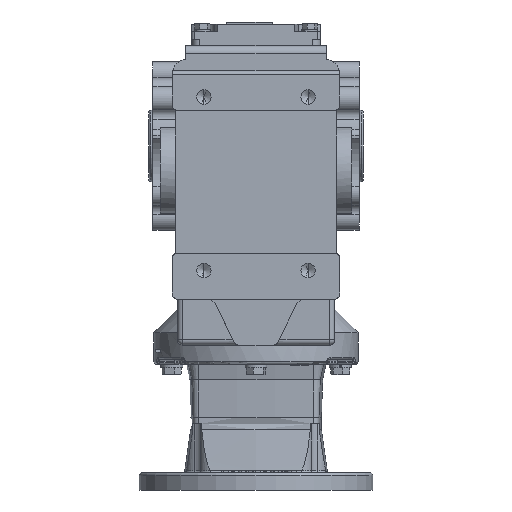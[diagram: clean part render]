
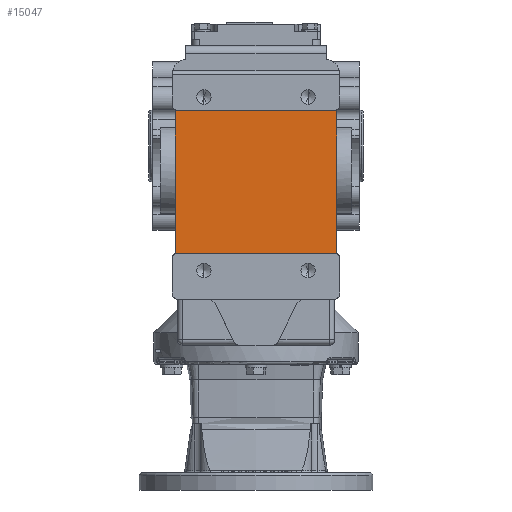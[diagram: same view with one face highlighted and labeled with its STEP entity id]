
A CAD part, front view. The second image highlights one B-rep face of the part: STEP entity #15047.
In plain terms, the highlighted planar face has unit normal (0, -1, 0).
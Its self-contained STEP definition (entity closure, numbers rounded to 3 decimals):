
#202 = CARTESIAN_POINT ( 'NONE',  ( -77., -175., 40. ) ) ;
#203 = DIRECTION ( 'NONE',  ( 0., 1., 0. ) ) ;
#204 = DIRECTION ( 'NONE',  ( 0., 0., -1. ) ) ;
#205 = DIRECTION ( 'NONE',  ( -1., 0., 0. ) ) ;
#206 = CARTESIAN_POINT ( 'NONE',  ( -79., -175., 15. ) ) ;
#210 = CARTESIAN_POINT ( 'NONE',  ( -82., -175., -105. ) ) ;
#211 = DIRECTION ( 'NONE',  ( 0., 0., 1. ) ) ;
#214 = CARTESIAN_POINT ( 'NONE',  ( -77., -175., -110. ) ) ;
#215 = DIRECTION ( 'NONE',  ( 0., 1., 0. ) ) ;
#216 = DIRECTION ( 'NONE',  ( 0., 0., -1. ) ) ;
#8695 = CARTESIAN_POINT ( 'NONE',  ( -100., -175., 15. ) ) ;
#8699 = PLANE ( 'NONE',  #35840 ) ;
#8754 = DIRECTION ( 'NONE',  ( 0., -1., 0. ) ) ;
#8755 = DIRECTION ( 'NONE',  ( 0., 0., -1. ) ) ;
#15047 = ADVANCED_FACE ( 'NONE', ( #40135 ), #8699, .T. ) ;
#21830 = AXIS2_PLACEMENT_3D ( 'NONE', #49288, #49289, #49290 ) ;
#21837 = AXIS2_PLACEMENT_3D ( 'NONE', #49327, #49328, #49329 ) ;
#21895 = AXIS2_PLACEMENT_3D ( 'NONE', #202, #203, #204 ) ;
#21897 = AXIS2_PLACEMENT_3D ( 'NONE', #214, #215, #216 ) ;
#28601 = VERTEX_POINT ( 'NONE', #46579 ) ;
#28608 = VERTEX_POINT ( 'NONE', #46586 ) ;
#28618 = VERTEX_POINT ( 'NONE', #46596 ) ;
#28620 = VERTEX_POINT ( 'NONE', #46598 ) ;
#28626 = VERTEX_POINT ( 'NONE', #46604 ) ;
#28750 = VERTEX_POINT ( 'NONE', #46728 ) ;
#28751 = VERTEX_POINT ( 'NONE', #46729 ) ;
#28754 = VERTEX_POINT ( 'NONE', #46732 ) ;
#28996 = EDGE_LOOP ( 'NONE', ( #30804, #30805, #30806, #30807, #30808, #30809, #30810, #30811 ) ) ;
#29444 = EDGE_CURVE ( 'NONE', #28608, #28618, #48049, .T. ) ;
#29446 = EDGE_CURVE ( 'NONE', #28601, #28618, #48053, .T. ) ;
#29448 = EDGE_CURVE ( 'NONE', #28601, #28620, #48056, .T. ) ;
#29462 = EDGE_CURVE ( 'NONE', #28626, #28620, #48079, .T. ) ;
#29683 = EDGE_CURVE ( 'NONE', #28608, #28750, #48404, .T. ) ;
#29686 = EDGE_CURVE ( 'NONE', #28751, #28750, #48401, .T. ) ;
#29687 = EDGE_CURVE ( 'NONE', #28751, #28754, #48410, .T. ) ;
#29688 = EDGE_CURVE ( 'NONE', #28626, #28754, #48412, .T. ) ;
#30804 = ORIENTED_EDGE ( 'NONE', *, *, #29448, .F. ) ;
#30805 = ORIENTED_EDGE ( 'NONE', *, *, #29446, .T. ) ;
#30806 = ORIENTED_EDGE ( 'NONE', *, *, #29444, .F. ) ;
#30807 = ORIENTED_EDGE ( 'NONE', *, *, #29683, .T. ) ;
#30808 = ORIENTED_EDGE ( 'NONE', *, *, #29686, .F. ) ;
#30809 = ORIENTED_EDGE ( 'NONE', *, *, #29687, .T. ) ;
#30810 = ORIENTED_EDGE ( 'NONE', *, *, #29688, .F. ) ;
#30811 = ORIENTED_EDGE ( 'NONE', *, *, #29462, .T. ) ;
#35840 = AXIS2_PLACEMENT_3D ( 'NONE', #8695, #8754, #8755 ) ;
#40135 = FACE_OUTER_BOUND ( 'NONE', #28996, .T. ) ;
#46579 = CARTESIAN_POINT ( 'NONE',  ( 79., -175., 35.417 ) ) ;
#46586 = CARTESIAN_POINT ( 'NONE',  ( -77., -175., 35. ) ) ;
#46596 = CARTESIAN_POINT ( 'NONE',  ( 77., -175., 35. ) ) ;
#46598 = CARTESIAN_POINT ( 'NONE',  ( 79., -175., -105.417 ) ) ;
#46604 = CARTESIAN_POINT ( 'NONE',  ( 77., -175., -105. ) ) ;
#46728 = CARTESIAN_POINT ( 'NONE',  ( -79., -175., 35.417 ) ) ;
#46729 = CARTESIAN_POINT ( 'NONE',  ( -79., -175., -105.417 ) ) ;
#46732 = CARTESIAN_POINT ( 'NONE',  ( -77., -175., -105. ) ) ;
#48049 = LINE ( 'NONE', #49283, #48052 ) ;
#48052 = VECTOR ( 'NONE', #49284, 1000. ) ;
#48053 = CIRCLE ( 'NONE', #21830, 5. ) ;
#48056 = LINE ( 'NONE', #49291, #48059 ) ;
#48059 = VECTOR ( 'NONE', #49292, 1000. ) ;
#48079 = CIRCLE ( 'NONE', #21837, 5. ) ;
#48401 = LINE ( 'NONE', #206, #48411 ) ;
#48404 = CIRCLE ( 'NONE', #21895, 5. ) ;
#48410 = CIRCLE ( 'NONE', #21897, 5. ) ;
#48411 = VECTOR ( 'NONE', #211, 1000. ) ;
#48412 = LINE ( 'NONE', #210, #48414 ) ;
#48414 = VECTOR ( 'NONE', #205, 1000. ) ;
#49283 = CARTESIAN_POINT ( 'NONE',  ( -82., -175., 35. ) ) ;
#49284 = DIRECTION ( 'NONE',  ( 1., 0., 0. ) ) ;
#49288 = CARTESIAN_POINT ( 'NONE',  ( 77., -175., 40. ) ) ;
#49289 = DIRECTION ( 'NONE',  ( 0., 1., 0. ) ) ;
#49290 = DIRECTION ( 'NONE',  ( 0., 0., -1. ) ) ;
#49291 = CARTESIAN_POINT ( 'NONE',  ( 79., -175., 15. ) ) ;
#49292 = DIRECTION ( 'NONE',  ( 0., 0., -1. ) ) ;
#49327 = CARTESIAN_POINT ( 'NONE',  ( 77., -175., -110. ) ) ;
#49328 = DIRECTION ( 'NONE',  ( 0., 1., 0. ) ) ;
#49329 = DIRECTION ( 'NONE',  ( 0., 0., -1. ) ) ;
